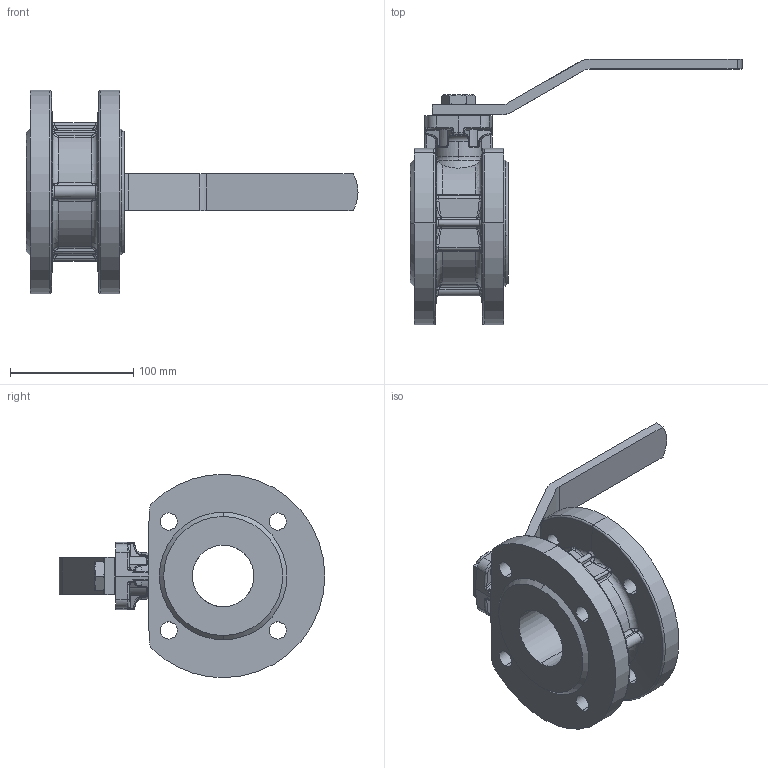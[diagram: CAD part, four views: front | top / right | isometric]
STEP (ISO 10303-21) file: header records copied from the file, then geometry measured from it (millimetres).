
FILE_DESCRIPTION (( 'STEP AP203' ), '1' );
FILE_NAME ('B1_050.STEP', '2012-06-08T15:23:44', ( ' ' ), ( '' ), 'SwSTEP 2.0', 'SolidWorks 2009', '' );
FILE_SCHEMA (( 'CONFIG_CONTROL_DESIGN' ));
Length unit declared in the file: millimetre
Products named in the file (1): B1_050
Bounding box: 269.25 x 215.53 x 165 mm (x, y, z)
Volume: 1002581.5 mm3; surface area: 133483.1 mm2
Topology: 1 solids, 1 shells, 435 faces, 1070 edges, 632 vertices
Faces by surface type: bspline 152, cylinder 126, plane 71, torus 44, cone 34, sphere 8
Entity records: 19018 total; most frequent: CARTESIAN_POINT 10002, ORIENTED_EDGE 2116, DIRECTION 1556, EDGE_CURVE 1058, AXIS2_PLACEMENT_3D 651, VERTEX_POINT 632, EDGE_LOOP 468, ADVANCED_FACE 435
